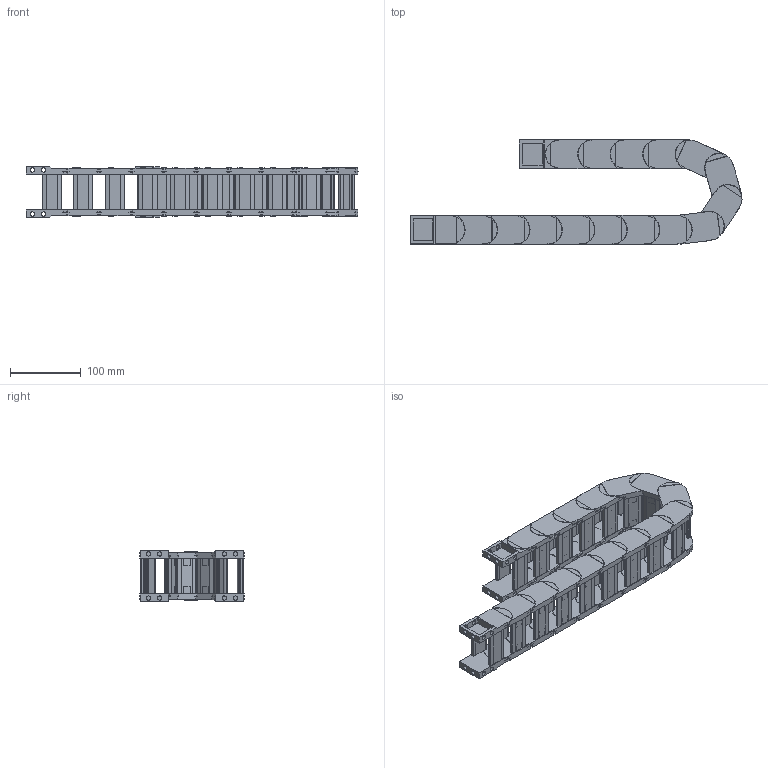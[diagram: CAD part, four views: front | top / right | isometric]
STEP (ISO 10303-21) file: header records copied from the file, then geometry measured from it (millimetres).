
FILE_DESCRIPTION((''),'2;1');
FILE_NAME('HD25-R55-ZPT_ASM','2022-09-04T16:29:33',('admin'),(''),'CREO PARAMETRIC BY PTC INC, 2021164','CREO PARAMETRIC BY PTC INC, 2021164','');
FILE_SCHEMA(('CONFIG_CONTROL_DESIGN','GEOMETRIC_VALIDATION_PROPERTIES_MIM'));
Length unit declared in the file: millimetre
Products named in the file (6): HD30; 25XL-QSYP-103; HD25_ASM; H25-T1; H25-T2; HD25-R55-ZPT_ASM
Assembly tree (21 placements, depth 3):
  HD25-R55-ZPT_ASM
    HD25_ASM  x15
      HD30
      25XL-QSYP-103
    H25-T1
    H25-T2
    25XL-QSYP-103  x2
Bounding box: 470.59 x 148.37 x 71.8 mm (x, y, z)
Volume: 762648.8 mm3; surface area: 415892.3 mm2
Topology: 68 solids, 98 shells, 1726 faces, 4375 edges, 2917 vertices
Faces by surface type: plane 1286, cylinder 380, torus 60
Entity records: 10721 total; most frequent: CARTESIAN_POINT 1520, DIRECTION 1466, ORIENTED_EDGE 1406, EDGE_CURVE 703, VECTOR 522, LINE 522, AXIS2_PLACEMENT_3D 472, VERTEX_POINT 469
